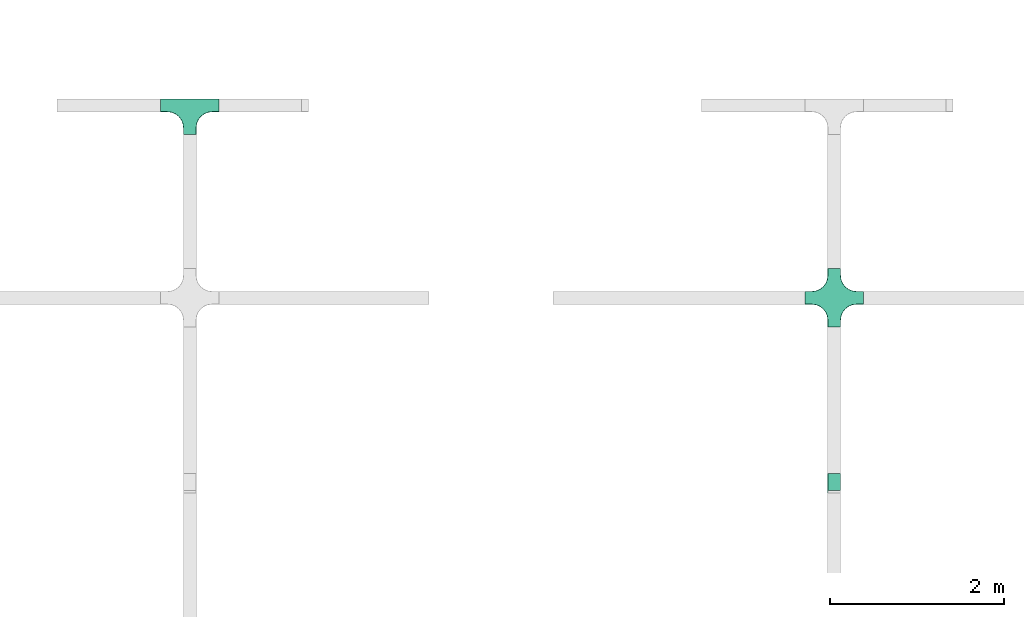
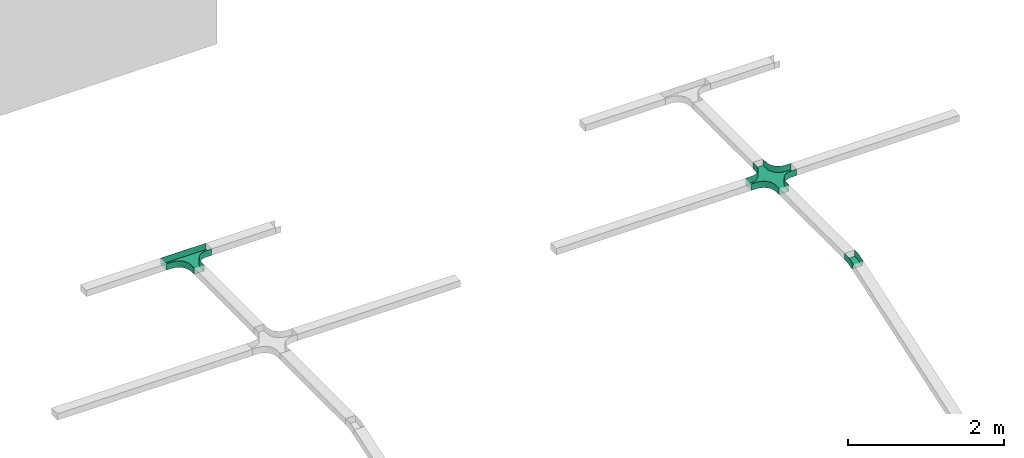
# One storey, part 43 of 197: 3 flow fittings.
"""IFC2X3 building model written with IfcOpenShell, lengths in metres."""

from ifc_helpers import new_model, entity, si_unit, converted_unit, direction, frame, origin, place, context, subcontext, project, spatial, faceted_brep, source, transform, mapped, material, type_object, type_shapes, element, save


model = new_model("IFC2X3")

# Units and contexts
model_context = context("Model", 3, precision=1e-05, world=origin(), true_north=direction((6.123031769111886e-17, 1.0)))
body_context = subcontext(model_context, "Body", "Model", "MODEL_VIEW")
ifc_project = project(units=[si_unit("LENGTHUNIT", "METRE"), converted_unit("PLANEANGLEUNIT", "DEGREE", entity("IfcPlaneAngleMeasure", 0.017453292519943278), si_unit("PLANEANGLEUNIT", "RADIAN"), dimensions=[0, 0, 0, 0, 0, 0, 0]), si_unit("AREAUNIT", "SQUARE_METRE")], contexts=[model_context])

# Site, building, storey
site_placement = place(None, origin())
site = spatial("IfcSite", under=ifc_project, at=site_placement, Name="Default", CompositionType="ELEMENT")
building_placement = place(site_placement, origin())
building = spatial("IfcBuilding", under=site, at=building_placement, CompositionType="ELEMENT")
storey_placement = place(building_placement, origin())
storey = spatial("IfcBuildingStorey", under=building, at=storey_placement, Name="Niveau 0", CompositionType="ELEMENT", Elevation=0.0)

# Flow fittings
ifc_material = material(Name="<Unnamed>")
cable_carrier_fitting_type_1 = type_object("IfcCableCarrierFittingType", Name="Chemin de câbles - Té:CDC CFO", PredefinedType="NOTDEFINED", material=ifc_material)
shared_shape_1 = source(origin(), body_context, "Body", "Brep", [
    faceted_brep([(-0.25499999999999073, -0.07246000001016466, 0.04999999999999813), (-0.3349999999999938, -0.07246000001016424, 0.04999999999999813), (-0.3349999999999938, -0.07500000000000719, 0.04999999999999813), (-0.25499999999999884, -0.07500000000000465, 0.04999999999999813), (-0.20841257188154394, -0.08113335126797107, 0.04999999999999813), (-0.16499999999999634, -0.09911542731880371, 0.04999999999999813), (-0.12772077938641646, -0.12772077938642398, 0.04999999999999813), (-0.09911542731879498, -0.16500000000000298, 0.04999999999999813), (-0.08113335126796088, -0.20841257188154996, 0.04999999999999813), (-0.07499999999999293, -0.2550000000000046, 0.04999999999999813), (-0.07499999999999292, -0.3350000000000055, 0.04999999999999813), (-0.07246000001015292, -0.3350000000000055, 0.04999999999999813), (-0.0724600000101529, -0.25500000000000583, 0.04999999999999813), (-0.07867989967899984, -0.20775517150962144, 0.04999999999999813), (-0.09691572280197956, -0.1637300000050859, 0.04999999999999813), (-0.12592472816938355, -0.12592472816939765, 0.04999999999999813), (-0.16373000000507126, -0.096915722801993, 0.04999999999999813), (-0.20775517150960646, -0.07867989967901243, 0.04999999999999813), (0.2084125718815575, -0.08113335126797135, 0.04999999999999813), (0.25500000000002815, -0.07500000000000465, 0.04999999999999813), (0.33500000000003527, -0.07500000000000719, 0.04999999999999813), (0.33500000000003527, -0.07246000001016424, 0.04999999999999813), (0.25500000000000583, -0.07246000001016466, 0.04999999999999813), (0.20775517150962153, -0.07867989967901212, 0.04999999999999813), (0.16373000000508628, -0.09691572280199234, 0.04999999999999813), (0.12592472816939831, -0.12592472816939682, 0.04999999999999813), (0.09691572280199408, -0.16373000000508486, 0.04999999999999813), (0.07867989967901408, -0.2077551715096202, 0.04999999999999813), (0.0724600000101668, -0.2550000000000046, 0.04999999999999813), (0.0724600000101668, -0.3350000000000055, 0.04999999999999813), (0.07500000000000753, -0.3350000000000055, 0.04999999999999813), (0.07500000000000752, -0.2550000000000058, 0.04999999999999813), (0.08113335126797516, -0.20841257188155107, 0.04999999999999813), (0.09911542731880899, -0.16500000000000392, 0.04999999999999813), (0.12772077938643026, -0.12772077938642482, 0.04999999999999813), (0.16500000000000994, -0.09911542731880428, 0.04999999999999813), (0.33500000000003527, 0.0749999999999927, 0.04999999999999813), (-0.3349999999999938, 0.0749999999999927, 0.04999999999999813), (-0.33499999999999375, 0.0724600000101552, 0.04999999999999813), (0.33500000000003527, 0.0724600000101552, 0.04999999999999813), (-0.07499999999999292, -0.3350000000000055, -0.05000000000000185), (-0.07499999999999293, -0.2550000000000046, -0.05000000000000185), (-0.08113335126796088, -0.20841257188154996, -0.05000000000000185), (-0.09911542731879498, -0.16500000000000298, -0.05000000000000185), (-0.12772077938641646, -0.12772077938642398, -0.05000000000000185), (-0.16499999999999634, -0.09911542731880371, -0.05000000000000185), (-0.20841257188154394, -0.08113335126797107, -0.05000000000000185), (-0.2549999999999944, -0.07500000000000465, -0.05000000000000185), (-0.3349999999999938, -0.07500000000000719, -0.05000000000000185), (-0.3349999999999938, 0.0749999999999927, -0.05000000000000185), (0.33500000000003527, 0.0749999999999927, -0.05000000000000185), (0.33500000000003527, -0.07500000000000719, -0.05000000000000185), (0.25500000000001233, -0.07500000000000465, -0.05000000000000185), (0.2084125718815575, -0.08113335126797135, -0.05000000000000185), (0.16500000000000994, -0.09911542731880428, -0.05000000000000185), (0.12772077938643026, -0.12772077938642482, -0.05000000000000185), (0.09911542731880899, -0.16500000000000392, -0.05000000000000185), (0.08113335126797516, -0.20841257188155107, -0.05000000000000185), (0.07500000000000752, -0.2550000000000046, -0.05000000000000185), (0.07500000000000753, -0.3350000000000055, -0.05000000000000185), (-0.07499999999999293, -0.2550000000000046, -0.04746000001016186), (0.07246000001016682, -0.3350000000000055, -0.04746000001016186), (-0.07246000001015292, -0.3350000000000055, -0.047460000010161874), (-0.07246000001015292, -0.25500000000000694, -0.047460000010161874), (-0.07867989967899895, -0.20775517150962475, -0.04746000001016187), (-0.09691572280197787, -0.16373000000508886, -0.04746000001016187), (-0.12592472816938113, -0.12592472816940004, -0.04746000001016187), (-0.16373000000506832, -0.09691572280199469, -0.04746000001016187), (-0.20775517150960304, -0.07867989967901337, -0.04746000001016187), (-0.25499999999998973, -0.07246000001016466, -0.04746000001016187), (-0.3349999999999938, -0.07246000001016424, -0.047460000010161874), (0.33500000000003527, -0.07246000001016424, -0.047460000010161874), (0.25500000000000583, -0.07246000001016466, -0.047460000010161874), (-0.3349999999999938, 0.0724600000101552, -0.047460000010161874), (-0.255, -0.07500000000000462, -0.047460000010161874), (0.255000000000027, -0.07500000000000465, -0.04746000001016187), (0.07500000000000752, -0.2550000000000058, -0.04746000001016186), (0.33500000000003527, 0.0724600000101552, -0.04746000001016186), (0.2077551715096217, -0.07867989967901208, -0.04746000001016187), (0.16373000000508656, -0.09691572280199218, -0.04746000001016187), (0.12592472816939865, -0.12592472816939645, -0.04746000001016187), (0.09691572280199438, -0.1637300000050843, -0.04746000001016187), (0.07867989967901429, -0.20775517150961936, -0.04746000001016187), (0.07246000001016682, -0.2550000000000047, -0.04746000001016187)], [[[0, 1, 2, 3, 4, 5, 6, 7, 8, 9, 10, 11, 12, 13, 14, 15, 16, 17]], [[18, 19, 20, 21, 22, 23, 24, 25, 26, 27, 28, 29, 30, 31, 32, 33, 34, 35]], [[36, 37, 38, 39]], [[40, 41, 42, 43, 44, 45, 46, 47, 48, 49, 50, 51, 52, 53, 54, 55, 56, 57, 58, 59]], [[10, 9, 60, 41, 40]], [[11, 10, 40, 59, 30, 29, 61, 62]], [[12, 11, 62, 63]], [[13, 64, 65, 14]], [[14, 65, 66, 15]], [[63, 64, 13, 12]], [[16, 67, 68, 17]], [[17, 68, 69, 0]], [[15, 66, 67, 16]], [[1, 0, 69, 70]], [[22, 21, 71, 72]], [[38, 37, 49, 48, 2, 1, 70, 73]], [[3, 2, 48, 47, 74]], [[20, 19, 75, 52, 51]], [[4, 3, 74, 47, 46]], [[5, 4, 46, 45]], [[45, 44, 6, 5]], [[7, 6, 44, 43]], [[8, 7, 43, 42]], [[9, 8, 42, 41, 60]], [[32, 31, 76, 58, 57]], [[57, 56, 33, 32]], [[33, 56, 55, 34]], [[18, 35, 54, 53]], [[18, 53, 52, 75, 19]], [[54, 35, 34, 55]], [[21, 20, 51, 50, 36, 39, 77, 71]], [[72, 78, 23, 22]], [[79, 24, 23, 78]], [[24, 79, 80, 25]], [[26, 81, 82, 27]], [[27, 82, 83, 28]], [[25, 80, 81, 26]], [[29, 28, 83, 61]], [[31, 30, 59, 58, 76]], [[37, 36, 50, 49]], [[39, 38, 73, 77]], [[73, 70, 69, 68, 67, 66, 65, 64, 63, 62, 61, 83, 82, 81, 80, 79, 78, 72, 71, 77]]]),
])
type_shapes(cable_carrier_fitting_type_1, [shared_shape_1])
flow_fitting_1_placement = place(storey_placement, frame((-502.73698006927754, 153.82491437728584, 2.75)))
element("IfcFlowFitting", 1, at=flow_fitting_1_placement, inside=storey, type_object=cable_carrier_fitting_type_1, material=ifc_material, Name="Chemin de câbles - Té:CDC CFO", ObjectType="Chemin de câbles - Té:CDC CFO", context=body_context, shape_type="MappedRepresentation", body=[
    mapped(shared_shape_1, transform((0.0, 0.0, 0.0), scale=1.0)),
])
cable_carrier_fitting_type_2 = type_object("IfcCableCarrierFittingType", Name="Chemin de câbles - Courbure convexe:CDC INCENDIE", PredefinedType="NOTDEFINED", material=ifc_material)
shared_shape_2 = source(origin(), body_context, "Body", "Brep", [
    faceted_brep([(-0.10757218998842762, -0.050000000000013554, -0.07500000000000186), (-0.10757218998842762, -0.050000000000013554, -0.07246000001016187), (-0.10757218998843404, 0.04746000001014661, -0.07246000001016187), (-0.10757218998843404, 0.047460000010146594, 0.07246000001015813), (-0.10757218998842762, -0.050000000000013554, 0.07246000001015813), (-0.10757218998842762, -0.050000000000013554, 0.07499999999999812), (-0.10757218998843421, 0.04999999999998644, 0.07499999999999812), (-0.10757218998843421, 0.04999999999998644, -0.07500000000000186), (-0.03257218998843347, -0.050000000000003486, 0.07499999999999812), (-0.023983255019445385, -0.04930517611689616, 0.07499999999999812), (-0.012479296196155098, -0.04837453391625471, 0.07499999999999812), (-0.0024328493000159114, -0.04756180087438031, 0.07499999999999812), (0.007613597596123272, -0.046749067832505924, 0.07499999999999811), (0.01739876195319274, -0.04433200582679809, 0.07499999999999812), (0.027183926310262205, -0.04191494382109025, 0.07499999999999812), (0.03838869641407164, -0.03914722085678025, 0.07499999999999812), (0.0467542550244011, -0.03708081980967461, 0.07499999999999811), (0.11787850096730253, -0.013282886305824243, 0.0749999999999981), (0.08614792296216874, 0.08154944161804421, 0.0749999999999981), (0.015023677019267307, 0.05775150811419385, 0.07499999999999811), (-0.008460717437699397, 0.05195055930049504, 0.07499999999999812), (-0.03257218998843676, 0.04999999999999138, 0.07499999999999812), (-0.03257218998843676, 0.04999999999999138, -0.07500000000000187), (-0.008460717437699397, 0.05195055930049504, -0.07500000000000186), (0.015023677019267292, 0.05775150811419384, -0.07500000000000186), (0.08614792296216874, 0.0815494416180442, -0.07500000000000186), (0.11787850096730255, -0.013282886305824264, -0.07500000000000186), (0.04675425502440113, -0.03708081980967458, -0.07500000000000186), (0.038388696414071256, -0.03914722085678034, -0.07500000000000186), (0.027183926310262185, -0.04191494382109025, -0.07500000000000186), (0.01739876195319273, -0.04433200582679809, -0.07500000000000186), (0.007613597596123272, -0.046749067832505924, -0.07500000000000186), (-0.003890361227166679, -0.047679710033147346, -0.07500000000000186), (-0.01539432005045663, -0.048610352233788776, -0.07500000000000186), (-0.03257218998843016, -0.050000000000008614, -0.07500000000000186), (-0.03257218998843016, -0.050000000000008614, -0.07246000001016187), (-0.03257218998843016, -0.050000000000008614, 0.07246000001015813), (-0.022525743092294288, -0.0491872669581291, -0.07246000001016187), (-0.012479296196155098, -0.04837453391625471, -0.07246000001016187), (-0.002432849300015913, -0.04756180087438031, -0.07246000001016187), (0.007613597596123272, -0.046749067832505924, -0.07246000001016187), (0.017398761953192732, -0.04433200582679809, -0.07246000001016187), (0.0271839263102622, -0.04191494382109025, -0.07246000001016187), (0.036969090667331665, -0.03949788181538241, -0.07246000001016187), (0.0467542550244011, -0.03708081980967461, -0.07246000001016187), (0.11787850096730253, -0.013282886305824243, -0.07246000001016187), (0.08695387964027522, 0.07914070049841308, -0.07246000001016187), (0.015829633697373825, 0.055342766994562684, -0.07246000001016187), (-0.008052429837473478, 0.049443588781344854, -0.07246000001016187), (-0.03257218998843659, 0.047460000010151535, -0.07246000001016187), (-0.03257218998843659, 0.04746000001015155, 0.07246000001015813), (-0.008052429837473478, 0.049443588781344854, 0.07246000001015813), (0.015829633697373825, 0.05534276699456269, 0.07246000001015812), (0.08695387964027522, 0.07914070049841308, 0.07246000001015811), (0.11787850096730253, -0.013282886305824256, 0.07246000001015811), (0.04675425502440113, -0.03708081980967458, 0.07246000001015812), (0.036969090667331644, -0.03949788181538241, 0.07246000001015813), (0.027183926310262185, -0.04191494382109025, 0.07246000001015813), (0.017398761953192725, -0.04433200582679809, 0.07246000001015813), (0.007613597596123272, -0.046749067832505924, 0.07246000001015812), (-0.0024328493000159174, -0.04756180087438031, 0.07246000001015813), (-0.012479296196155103, -0.04837453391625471, 0.07246000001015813), (-0.022525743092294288, -0.0491872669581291, 0.07246000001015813)], [[[0, 1, 2, 3, 4, 5, 6, 7]], [[5, 8, 9, 10, 11, 12, 13, 14, 15, 16, 17, 18, 19, 20, 21, 6]], [[7, 6, 21, 22]], [[7, 22, 23, 24, 25, 26, 27, 28, 29, 30, 31, 32, 33, 34, 0]], [[1, 0, 34, 35]], [[5, 4, 36, 8]], [[1, 35, 37, 38, 39, 40, 41, 42, 43, 44, 45, 46, 47, 48, 49, 2]], [[3, 2, 49, 50]], [[3, 50, 51, 52, 53, 54, 55, 56, 57, 58, 59, 60, 61, 62, 36, 4]], [[22, 21, 20, 23]], [[19, 24, 23, 20]], [[33, 32, 31, 40, 39, 38, 37, 35, 34]], [[61, 60, 59, 12, 11, 10, 9, 8, 36, 62]], [[42, 41, 40, 31, 30, 29, 28, 27, 44, 43]], [[12, 59, 58, 57, 56, 55, 16, 15, 14, 13]], [[51, 50, 49, 48]], [[51, 48, 47, 52]], [[25, 18, 17, 54, 53, 46, 45, 26]], [[24, 19, 18, 25]], [[44, 27, 26, 45]], [[16, 55, 54, 17]], [[52, 47, 46, 53]]]),
])
type_shapes(cable_carrier_fitting_type_2, [shared_shape_2])
flow_fitting_2_placement = place(storey_placement, frame((-495.349980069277, 149.49780399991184, 2.7499999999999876), z_axis=(-1.0, 0.0, 0.0), x_axis=(0.0, 0.9483232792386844, 0.31730578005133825)))
element("IfcFlowFitting", 2, at=flow_fitting_2_placement, inside=storey, type_object=cable_carrier_fitting_type_2, material=ifc_material, Name="Chemin de câbles - Courbure convexe:CDC INCENDIE", ObjectType="Chemin de câbles - Courbure convexe:CDC INCENDIE", context=body_context, shape_type="MappedRepresentation", body=[
    mapped(shared_shape_2, transform((0.0, 0.0, 0.0), scale=1.0)),
])
cable_carrier_fitting_type_3 = type_object("IfcCableCarrierFittingType", Name="Chemin de câbles - Croix:CDC INCENDIE", PredefinedType="NOTDEFINED", material=ifc_material)
shared_shape_3 = source(origin(), body_context, "Body", "Brep", [
    faceted_brep([(0.20841257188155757, -0.08113335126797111, 0.04999999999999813), (0.2550000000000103, -0.07500000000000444, 0.04999999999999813), (0.33500000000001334, -0.07500000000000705, 0.04999999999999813), (0.33500000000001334, -0.07246000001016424, 0.04999999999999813), (0.2550000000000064, -0.07246000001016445, 0.04999999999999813), (0.2077551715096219, -0.07867989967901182, 0.04999999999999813), (0.16373000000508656, -0.09691572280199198, 0.04999999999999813), (0.12592472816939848, -0.12592472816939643, 0.04999999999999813), (0.09691572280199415, -0.16373000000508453, 0.04999999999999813), (0.07867989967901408, -0.20775517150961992, 0.04999999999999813), (0.0724600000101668, -0.25500000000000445, 0.04999999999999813), (0.0724600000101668, -0.33500000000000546, 0.04999999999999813), (0.0750000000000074, -0.33500000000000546, 0.04999999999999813), (0.07500000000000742, -0.2550000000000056, 0.04999999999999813), (0.08113335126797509, -0.20841257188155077, 0.04999999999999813), (0.09911542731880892, -0.16500000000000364, 0.04999999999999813), (0.12772077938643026, -0.1277207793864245, 0.04999999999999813), (0.16500000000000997, -0.09911542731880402, 0.04999999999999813), (-0.2549999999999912, -0.07246000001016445, 0.04999999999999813), (-0.3349999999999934, -0.07246000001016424, 0.04999999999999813), (-0.3349999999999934, -0.07500000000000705, 0.04999999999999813), (-0.254999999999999, -0.07500000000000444, 0.04999999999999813), (-0.20841257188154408, -0.0811333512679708, 0.04999999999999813), (-0.1649999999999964, -0.0991154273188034, 0.04999999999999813), (-0.12772077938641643, -0.12772077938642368, 0.04999999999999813), (-0.09911542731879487, -0.16500000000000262, 0.04999999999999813), (-0.08113335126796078, -0.20841257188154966, 0.04999999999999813), (-0.0749999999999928, -0.25500000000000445, 0.04999999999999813), (-0.07499999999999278, -0.33500000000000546, 0.04999999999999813), (-0.07246000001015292, -0.33500000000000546, 0.04999999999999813), (-0.0724600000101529, -0.2550000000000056, 0.04999999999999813), (-0.07867989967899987, -0.20775517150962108, 0.04999999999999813), (-0.09691572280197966, -0.16373000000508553, 0.04999999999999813), (-0.12592472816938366, -0.12592472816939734, 0.04999999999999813), (-0.16373000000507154, -0.09691572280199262, 0.04999999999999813), (-0.2077551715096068, -0.07867989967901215, 0.04999999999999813), (-0.0811333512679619, 0.20841257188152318, 0.04999999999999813), (-0.0991154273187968, 0.1649999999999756, 0.04999999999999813), (-0.12772077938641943, 0.1277207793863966, 0.04999999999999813), (-0.1650000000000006, 0.09911542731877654, 0.04999999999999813), (-0.20841257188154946, 0.08113335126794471, 0.04999999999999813), (-0.25500000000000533, 0.07499999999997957, 0.04999999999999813), (-0.3349999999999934, 0.07499999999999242, 0.04999999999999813), (-0.3349999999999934, 0.07246000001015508, 0.04999999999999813), (-0.255000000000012, 0.07246000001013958, 0.04999999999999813), (-0.2077551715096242, 0.07867989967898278, 0.04999999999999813), (-0.1637300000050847, 0.09691572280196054, 0.04999999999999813), (-0.12592472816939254, 0.12592472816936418, 0.04999999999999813), (-0.09691572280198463, 0.16373000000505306, 0.04999999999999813), (-0.078679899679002, 0.20775517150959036, 0.04999999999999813), (-0.07246000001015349, 0.25499999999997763, 0.04999999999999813), (-0.07246000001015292, 0.3349999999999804, 0.04999999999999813), (-0.07499999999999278, 0.3349999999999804, 0.04999999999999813), (-0.07499999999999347, 0.25499999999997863, 0.04999999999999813), (0.0750000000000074, 0.3349999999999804, 0.04999999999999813), (0.0724600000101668, 0.3349999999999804, 0.04999999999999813), (0.07246000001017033, 0.254999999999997, 0.04999999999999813), (0.0786798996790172, 0.207755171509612, 0.04999999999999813), (0.09691572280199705, 0.1637300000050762, 0.04999999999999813), (0.1259247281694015, 0.1259247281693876, 0.04999999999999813), (0.16373000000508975, 0.09691572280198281, 0.04999999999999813), (0.20775517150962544, 0.07867989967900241, 0.04999999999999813), (0.2550000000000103, 0.07246000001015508, 0.04999999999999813), (0.33500000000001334, 0.07246000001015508, 0.04999999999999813), (0.33500000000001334, 0.07499999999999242, 0.04999999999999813), (0.2550000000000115, 0.07499999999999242, 0.04999999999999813), (0.2084125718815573, 0.08113335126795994, 0.04999999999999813), (0.16500000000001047, 0.09911542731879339, 0.04999999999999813), (0.1277207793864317, 0.1277207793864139, 0.04999999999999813), (0.09911542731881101, 0.16499999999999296, 0.04999999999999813), (0.08113335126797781, 0.20841257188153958, 0.04999999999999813), (0.07500000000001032, 0.2549999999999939, 0.04999999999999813), (-0.08113335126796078, -0.20841257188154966, -0.05000000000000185), (-0.09911542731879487, -0.16500000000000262, -0.05000000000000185), (-0.12772077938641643, -0.12772077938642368, -0.05000000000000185), (-0.1649999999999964, -0.0991154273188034, -0.05000000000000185), (-0.20841257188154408, -0.0811333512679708, -0.05000000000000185), (-0.25499999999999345, -0.07500000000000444, -0.05000000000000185), (-0.3349999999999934, -0.07500000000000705, -0.05000000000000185), (-0.3349999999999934, 0.07499999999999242, -0.05000000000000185), (-0.2550000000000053, 0.07499999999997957, -0.05000000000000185), (-0.20841257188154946, 0.08113335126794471, -0.05000000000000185), (-0.1650000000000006, 0.09911542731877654, -0.05000000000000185), (-0.12772077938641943, 0.1277207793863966, -0.05000000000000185), (-0.0991154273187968, 0.1649999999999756, -0.05000000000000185), (-0.0811333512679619, 0.20841257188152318, -0.05000000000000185), (-0.07499999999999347, 0.2549999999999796, -0.05000000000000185), (-0.07499999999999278, 0.3349999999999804, -0.05000000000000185), (0.0750000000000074, 0.3349999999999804, -0.05000000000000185), (0.07500000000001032, 0.2549999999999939, -0.05000000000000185), (0.08113335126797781, 0.20841257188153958, -0.05000000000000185), (0.09911542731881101, 0.16499999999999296, -0.05000000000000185), (0.1277207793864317, 0.1277207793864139, -0.05000000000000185), (0.16500000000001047, 0.09911542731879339, -0.05000000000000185), (0.2084125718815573, 0.08113335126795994, -0.05000000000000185), (0.2550000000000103, 0.07499999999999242, -0.05000000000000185), (0.33500000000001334, 0.07499999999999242, -0.05000000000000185), (0.33500000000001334, -0.07500000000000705, -0.05000000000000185), (0.25500000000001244, -0.07500000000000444, -0.05000000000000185), (0.20841257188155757, -0.08113335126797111, -0.05000000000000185), (0.16500000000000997, -0.09911542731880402, -0.05000000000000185), (0.12772077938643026, -0.1277207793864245, -0.05000000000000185), (0.09911542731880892, -0.16500000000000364, -0.05000000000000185), (0.08113335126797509, -0.20841257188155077, -0.05000000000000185), (0.07500000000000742, -0.2550000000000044, -0.05000000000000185), (0.0750000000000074, -0.33500000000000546, -0.05000000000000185), (-0.07499999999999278, -0.33500000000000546, -0.05000000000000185), (-0.0749999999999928, -0.25500000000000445, -0.05000000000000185), (-0.0749999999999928, -0.25500000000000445, -0.04746000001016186), (-0.07499999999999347, 0.25499999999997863, -0.047460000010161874), (0.07246000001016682, -0.33500000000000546, -0.04746000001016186), (-0.07246000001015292, -0.33500000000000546, -0.047460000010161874), (-0.07246000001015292, -0.2550000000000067, -0.047460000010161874), (-0.07246000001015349, 0.25499999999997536, -0.04746000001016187), (-0.07246000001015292, 0.3349999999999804, -0.04746000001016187), (-0.078679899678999, -0.2077551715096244, -0.04746000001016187), (-0.09691572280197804, -0.1637300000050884, -0.04746000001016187), (-0.12592472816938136, -0.12592472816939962, -0.04746000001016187), (-0.16373000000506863, -0.09691572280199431, -0.04746000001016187), (-0.20775517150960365, -0.07867989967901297, -0.04746000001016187), (-0.2549999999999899, -0.07246000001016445, -0.04746000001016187), (-0.3349999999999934, -0.07246000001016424, -0.047460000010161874), (0.33500000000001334, -0.07246000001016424, -0.047460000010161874), (0.2550000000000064, -0.07246000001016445, -0.047460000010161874), (-0.3349999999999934, 0.07246000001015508, -0.047460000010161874), (-0.25500000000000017, -0.07500000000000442, -0.047460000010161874), (0.25500000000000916, -0.07500000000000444, -0.04746000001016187), (0.07500000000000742, -0.2550000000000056, -0.04746000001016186), (0.33500000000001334, 0.07246000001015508, -0.04746000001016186), (0.20775517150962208, -0.07867989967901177, -0.04746000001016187), (0.16373000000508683, -0.0969157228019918, -0.04746000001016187), (0.12592472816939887, -0.125924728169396, -0.04746000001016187), (0.09691572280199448, -0.16373000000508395, -0.04746000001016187), (0.07867989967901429, -0.20775517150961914, -0.04746000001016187), (0.07246000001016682, -0.2550000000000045, -0.04746000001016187), (0.07246000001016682, 0.3349999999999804, -0.04746000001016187), (0.07246000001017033, 0.2549999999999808, -0.04746000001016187), (0.07500000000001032, 0.2549999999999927, -0.04746000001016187), (-0.07867989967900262, 0.2077551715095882, -0.04746000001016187), (-0.09691572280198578, 0.16373000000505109, -0.04746000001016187), (-0.12592472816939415, 0.12592472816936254, -0.04746000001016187), (-0.16373000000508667, 0.09691572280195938, -0.04746000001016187), (-0.2077551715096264, 0.07867989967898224, -0.04746000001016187), (-0.2550000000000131, 0.07246000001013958, -0.04746000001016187), (0.255000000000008, 0.07246000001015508, -0.04746000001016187), (0.20775517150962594, 0.07867989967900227, -0.04746000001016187), (0.16373000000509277, 0.09691572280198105, -0.04746000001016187), (0.1259247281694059, 0.12592472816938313, -0.04746000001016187), (0.09691572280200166, 0.1637300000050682, -0.04746000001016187), (0.07867989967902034, 0.20775517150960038, -0.04746000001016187), (-0.2550000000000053, 0.07499999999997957, -0.04746000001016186), (0.2550000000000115, 0.07499999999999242, -0.047460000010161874)], [[[0, 1, 2, 3, 4, 5, 6, 7, 8, 9, 10, 11, 12, 13, 14, 15, 16, 17]], [[18, 19, 20, 21, 22, 23, 24, 25, 26, 27, 28, 29, 30, 31, 32, 33, 34, 35]], [[36, 37, 38, 39, 40, 41, 42, 43, 44, 45, 46, 47, 48, 49, 50, 51, 52, 53]], [[54, 55, 56, 57, 58, 59, 60, 61, 62, 63, 64, 65, 66, 67, 68, 69, 70, 71]], [[72, 73, 74, 75, 76, 77, 78, 79, 80, 81, 82, 83, 84, 85, 86, 87, 88, 89, 90, 91, 92, 93, 94, 95, 96, 97, 98, 99, 100, 101, 102, 103, 104, 105, 106, 107]], [[28, 27, 108, 107, 106]], [[53, 52, 87, 86, 109]], [[29, 28, 106, 105, 12, 11, 110, 111]], [[30, 29, 111, 112]], [[51, 50, 113, 114]], [[31, 115, 116, 32]], [[32, 116, 117, 33]], [[112, 115, 31, 30]], [[34, 118, 119, 35]], [[35, 119, 120, 18]], [[33, 117, 118, 34]], [[19, 18, 120, 121]], [[4, 3, 122, 123]], [[43, 42, 79, 78, 20, 19, 121, 124]], [[21, 20, 78, 77, 125]], [[2, 1, 126, 98, 97]], [[22, 21, 125, 77, 76]], [[23, 22, 76, 75]], [[75, 74, 24, 23]], [[25, 24, 74, 73]], [[26, 25, 73, 72]], [[27, 26, 72, 107, 108]], [[14, 13, 127, 104, 103]], [[103, 102, 15, 14]], [[15, 102, 101, 16]], [[0, 17, 100, 99]], [[0, 99, 98, 126, 1]], [[100, 17, 16, 101]], [[3, 2, 97, 96, 64, 63, 128, 122]], [[123, 129, 5, 4]], [[130, 6, 5, 129]], [[6, 130, 131, 7]], [[8, 132, 133, 9]], [[9, 133, 134, 10]], [[7, 131, 132, 8]], [[11, 10, 134, 110]], [[56, 55, 135, 136]], [[13, 12, 105, 104, 127]], [[54, 71, 137, 89, 88]], [[138, 139, 140, 141, 142, 143, 124, 121, 120, 119, 118, 117, 116, 115, 112, 111, 110, 134, 133, 132, 131, 130, 129, 123, 122, 128, 144, 145, 146, 147, 148, 149, 136, 135, 114, 113]], [[42, 41, 150, 80, 79]], [[65, 64, 96, 95, 151]], [[44, 43, 124, 143]], [[63, 62, 144, 128]], [[45, 142, 141, 46]], [[46, 141, 140, 47]], [[143, 142, 45, 44]], [[48, 139, 138, 49]], [[49, 138, 113, 50]], [[47, 140, 139, 48]], [[55, 54, 88, 87, 52, 51, 114, 135]], [[36, 53, 109, 86, 85]], [[83, 38, 37, 84]], [[37, 36, 85, 84]], [[40, 39, 82, 81]], [[40, 81, 80, 150, 41]], [[82, 39, 38, 83]], [[148, 147, 59, 58]], [[56, 136, 149, 57]], [[57, 149, 148, 58]], [[60, 146, 145, 61]], [[61, 145, 144, 62]], [[59, 147, 146, 60]], [[151, 95, 94, 66, 65]], [[93, 92, 68, 67]], [[93, 67, 66, 94]], [[70, 69, 91, 90]], [[70, 90, 89, 137, 71]], [[91, 69, 68, 92]]]),
])
type_shapes(cable_carrier_fitting_type_3, [shared_shape_3])
flow_fitting_3_placement = place(storey_placement, frame((-495.349980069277, 151.61891437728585, 2.7500000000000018), z_axis=(0.0, 0.0, 1.0), x_axis=(-1.0, 0.0, 0.0)))
element("IfcFlowFitting", 3, at=flow_fitting_3_placement, inside=storey, type_object=cable_carrier_fitting_type_3, material=ifc_material, Name="Chemin de câbles - Croix:CDC INCENDIE", ObjectType="Chemin de câbles - Croix:CDC INCENDIE", context=body_context, shape_type="MappedRepresentation", body=[
    mapped(shared_shape_3, transform((0.0, 0.0, 0.0), scale=1.0)),
])

save(model, "model.ifc")
